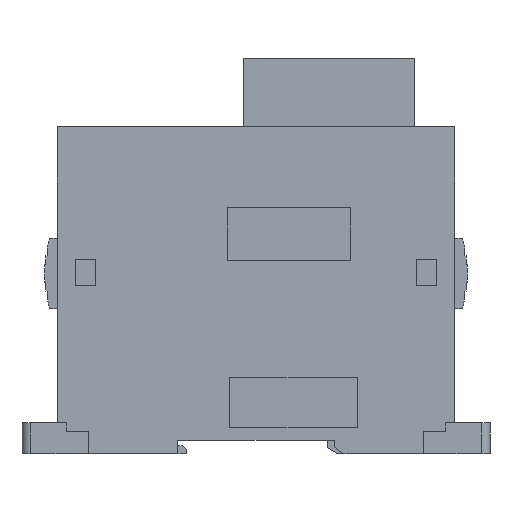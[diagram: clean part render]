
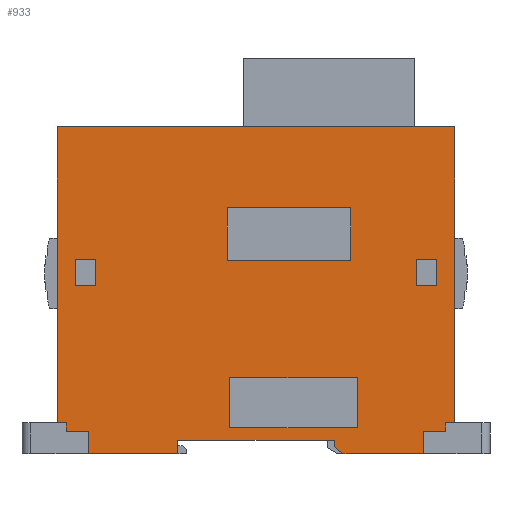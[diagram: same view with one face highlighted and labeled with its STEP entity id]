
A CAD part, left-side view. The second image highlights one B-rep face of the part: STEP entity #933.
In plain terms, the highlighted planar face has unit normal (-1, 0, 0).
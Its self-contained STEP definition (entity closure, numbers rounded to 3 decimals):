
#864=FACE_BOUND('',#1513,.T.);
#865=FACE_BOUND('',#1514,.T.);
#866=FACE_BOUND('',#1515,.T.);
#867=FACE_BOUND('',#1516,.T.);
#868=FACE_BOUND('',#1517,.T.);
#933=ADVANCED_FACE('',(#864,#865,#866,#867,#868),#1128,.T.);
#1128=PLANE('',#4553);
#1513=EDGE_LOOP('',(#1851,#1852,#1853,#1854));
#1514=EDGE_LOOP('',(#1855,#1856,#1857,#1858));
#1515=EDGE_LOOP('',(#1859,#1860,#1861,#1862));
#1516=EDGE_LOOP('',(#1863,#1864,#1865,#1866));
#1517=EDGE_LOOP('',(#1867,#1868,#1869,#1870,#1871,#1872,#1873,#1874,#1875,
#1876,#1877,#1878,#1879,#1880,#1881,#1882,#1883));
#1851=ORIENTED_EDGE('',*,*,#3173,.T.);
#1852=ORIENTED_EDGE('',*,*,#3174,.T.);
#1853=ORIENTED_EDGE('',*,*,#3175,.T.);
#1854=ORIENTED_EDGE('',*,*,#3176,.T.);
#1855=ORIENTED_EDGE('',*,*,#3177,.T.);
#1856=ORIENTED_EDGE('',*,*,#3178,.T.);
#1857=ORIENTED_EDGE('',*,*,#3179,.T.);
#1858=ORIENTED_EDGE('',*,*,#3180,.T.);
#1859=ORIENTED_EDGE('',*,*,#3181,.T.);
#1860=ORIENTED_EDGE('',*,*,#3182,.T.);
#1861=ORIENTED_EDGE('',*,*,#3183,.T.);
#1862=ORIENTED_EDGE('',*,*,#3184,.T.);
#1863=ORIENTED_EDGE('',*,*,#3185,.T.);
#1864=ORIENTED_EDGE('',*,*,#3186,.T.);
#1865=ORIENTED_EDGE('',*,*,#3187,.T.);
#1866=ORIENTED_EDGE('',*,*,#3188,.T.);
#1867=ORIENTED_EDGE('',*,*,#3189,.T.);
#1868=ORIENTED_EDGE('',*,*,#3190,.T.);
#1869=ORIENTED_EDGE('',*,*,#3191,.T.);
#1870=ORIENTED_EDGE('',*,*,#3192,.T.);
#1871=ORIENTED_EDGE('',*,*,#3193,.T.);
#1872=ORIENTED_EDGE('',*,*,#3194,.T.);
#1873=ORIENTED_EDGE('',*,*,#3195,.T.);
#1874=ORIENTED_EDGE('',*,*,#3196,.T.);
#1875=ORIENTED_EDGE('',*,*,#3197,.T.);
#1876=ORIENTED_EDGE('',*,*,#3198,.T.);
#1877=ORIENTED_EDGE('',*,*,#3199,.T.);
#1878=ORIENTED_EDGE('',*,*,#3200,.F.);
#1879=ORIENTED_EDGE('',*,*,#3148,.F.);
#1880=ORIENTED_EDGE('',*,*,#3201,.F.);
#1881=ORIENTED_EDGE('',*,*,#3202,.T.);
#1882=ORIENTED_EDGE('',*,*,#3203,.T.);
#1883=ORIENTED_EDGE('',*,*,#3204,.T.);
#2778=VERTEX_POINT('',#5858);
#2779=VERTEX_POINT('',#5860);
#2799=VERTEX_POINT('',#5916);
#2800=VERTEX_POINT('',#5917);
#2801=VERTEX_POINT('',#5919);
#2802=VERTEX_POINT('',#5921);
#2803=VERTEX_POINT('',#5924);
#2804=VERTEX_POINT('',#5925);
#2805=VERTEX_POINT('',#5927);
#2806=VERTEX_POINT('',#5929);
#2807=VERTEX_POINT('',#5932);
#2808=VERTEX_POINT('',#5933);
#2809=VERTEX_POINT('',#5935);
#2810=VERTEX_POINT('',#5937);
#2811=VERTEX_POINT('',#5940);
#2812=VERTEX_POINT('',#5941);
#2813=VERTEX_POINT('',#5943);
#2814=VERTEX_POINT('',#5945);
#2815=VERTEX_POINT('',#5948);
#2816=VERTEX_POINT('',#5949);
#2817=VERTEX_POINT('',#5951);
#2818=VERTEX_POINT('',#5953);
#2819=VERTEX_POINT('',#5955);
#2820=VERTEX_POINT('',#5957);
#2821=VERTEX_POINT('',#5959);
#2822=VERTEX_POINT('',#5961);
#2823=VERTEX_POINT('',#5963);
#2824=VERTEX_POINT('',#5965);
#2825=VERTEX_POINT('',#5967);
#2826=VERTEX_POINT('',#5969);
#2827=VERTEX_POINT('',#5972);
#2828=VERTEX_POINT('',#5974);
#2829=VERTEX_POINT('',#5976);
#3148=EDGE_CURVE('',#2778,#2779,#3651,.T.);
#3173=EDGE_CURVE('',#2799,#2800,#3666,.T.);
#3174=EDGE_CURVE('',#2800,#2801,#3667,.T.);
#3175=EDGE_CURVE('',#2801,#2802,#3668,.T.);
#3176=EDGE_CURVE('',#2802,#2799,#3669,.T.);
#3177=EDGE_CURVE('',#2803,#2804,#3670,.T.);
#3178=EDGE_CURVE('',#2804,#2805,#3671,.T.);
#3179=EDGE_CURVE('',#2805,#2806,#3672,.T.);
#3180=EDGE_CURVE('',#2806,#2803,#3673,.T.);
#3181=EDGE_CURVE('',#2807,#2808,#3674,.T.);
#3182=EDGE_CURVE('',#2808,#2809,#3675,.T.);
#3183=EDGE_CURVE('',#2809,#2810,#3676,.T.);
#3184=EDGE_CURVE('',#2810,#2807,#3677,.T.);
#3185=EDGE_CURVE('',#2811,#2812,#3678,.T.);
#3186=EDGE_CURVE('',#2812,#2813,#3679,.T.);
#3187=EDGE_CURVE('',#2813,#2814,#3680,.T.);
#3188=EDGE_CURVE('',#2814,#2811,#3681,.T.);
#3189=EDGE_CURVE('',#2815,#2816,#3682,.T.);
#3190=EDGE_CURVE('',#2816,#2817,#3683,.T.);
#3191=EDGE_CURVE('',#2817,#2818,#3684,.T.);
#3192=EDGE_CURVE('',#2818,#2819,#3685,.T.);
#3193=EDGE_CURVE('',#2819,#2820,#3686,.T.);
#3194=EDGE_CURVE('',#2820,#2821,#3687,.T.);
#3195=EDGE_CURVE('',#2821,#2822,#3688,.T.);
#3196=EDGE_CURVE('',#2822,#2823,#3689,.T.);
#3197=EDGE_CURVE('',#2823,#2824,#3690,.T.);
#3198=EDGE_CURVE('',#2824,#2825,#3691,.T.);
#3199=EDGE_CURVE('',#2825,#2826,#3692,.T.);
#3200=EDGE_CURVE('',#2779,#2826,#3693,.T.);
#3201=EDGE_CURVE('',#2827,#2778,#3694,.T.);
#3202=EDGE_CURVE('',#2827,#2828,#3695,.T.);
#3203=EDGE_CURVE('',#2828,#2829,#3696,.T.);
#3204=EDGE_CURVE('',#2829,#2815,#3697,.T.);
#3651=LINE('',#5859,#4100);
#3666=LINE('',#5915,#4115);
#3667=LINE('',#5918,#4116);
#3668=LINE('',#5920,#4117);
#3669=LINE('',#5922,#4118);
#3670=LINE('',#5923,#4119);
#3671=LINE('',#5926,#4120);
#3672=LINE('',#5928,#4121);
#3673=LINE('',#5930,#4122);
#3674=LINE('',#5931,#4123);
#3675=LINE('',#5934,#4124);
#3676=LINE('',#5936,#4125);
#3677=LINE('',#5938,#4126);
#3678=LINE('',#5939,#4127);
#3679=LINE('',#5942,#4128);
#3680=LINE('',#5944,#4129);
#3681=LINE('',#5946,#4130);
#3682=LINE('',#5947,#4131);
#3683=LINE('',#5950,#4132);
#3684=LINE('',#5952,#4133);
#3685=LINE('',#5954,#4134);
#3686=LINE('',#5956,#4135);
#3687=LINE('',#5958,#4136);
#3688=LINE('',#5960,#4137);
#3689=LINE('',#5962,#4138);
#3690=LINE('',#5964,#4139);
#3691=LINE('',#5966,#4140);
#3692=LINE('',#5968,#4141);
#3693=LINE('',#5970,#4142);
#3694=LINE('',#5971,#4143);
#3695=LINE('',#5973,#4144);
#3696=LINE('',#5975,#4145);
#3697=LINE('',#5977,#4146);
#4100=VECTOR('',#4868,1.);
#4115=VECTOR('',#4925,1.);
#4116=VECTOR('',#4926,1.);
#4117=VECTOR('',#4927,1.);
#4118=VECTOR('',#4928,1.);
#4119=VECTOR('',#4929,1.);
#4120=VECTOR('',#4930,1.);
#4121=VECTOR('',#4931,1.);
#4122=VECTOR('',#4932,1.);
#4123=VECTOR('',#4933,1.);
#4124=VECTOR('',#4934,1.);
#4125=VECTOR('',#4935,1.);
#4126=VECTOR('',#4936,1.);
#4127=VECTOR('',#4937,1.);
#4128=VECTOR('',#4938,1.);
#4129=VECTOR('',#4939,1.);
#4130=VECTOR('',#4940,1.);
#4131=VECTOR('',#4941,1.);
#4132=VECTOR('',#4942,1.);
#4133=VECTOR('',#4943,1.);
#4134=VECTOR('',#4944,1.);
#4135=VECTOR('',#4945,1.);
#4136=VECTOR('',#4946,1.);
#4137=VECTOR('',#4947,1.);
#4138=VECTOR('',#4948,1.);
#4139=VECTOR('',#4949,1.);
#4140=VECTOR('',#4950,1.);
#4141=VECTOR('',#4951,1.);
#4142=VECTOR('',#4952,1.);
#4143=VECTOR('',#4953,1.);
#4144=VECTOR('',#4954,1.);
#4145=VECTOR('',#4955,1.);
#4146=VECTOR('',#4956,1.);
#4553=AXIS2_PLACEMENT_3D('',#5978,#4957,#4958);
#4868=DIRECTION('',(0.,-1.,0.));
#4925=DIRECTION('',(0.,0.,1.));
#4926=DIRECTION('',(0.,-1.,0.));
#4927=DIRECTION('',(0.,0.,-1.));
#4928=DIRECTION('',(0.,1.,0.));
#4929=DIRECTION('',(0.,0.,1.));
#4930=DIRECTION('',(0.,-1.,0.));
#4931=DIRECTION('',(0.,0.,-1.));
#4932=DIRECTION('',(0.,1.,0.));
#4933=DIRECTION('',(0.,1.,0.));
#4934=DIRECTION('',(0.,0.,1.));
#4935=DIRECTION('',(0.,-1.,0.));
#4936=DIRECTION('',(0.,0.,-1.));
#4937=DIRECTION('',(0.,-1.,0.));
#4938=DIRECTION('',(0.,0.,-1.));
#4939=DIRECTION('',(0.,1.,0.));
#4940=DIRECTION('',(0.,0.,1.));
#4941=DIRECTION('',(0.,0.,-1.));
#4942=DIRECTION('',(0.,-1.,0.));
#4943=DIRECTION('',(0.,0.,1.));
#4944=DIRECTION('',(0.,-1.,0.));
#4945=DIRECTION('',(0.,0.,-1.));
#4946=DIRECTION('',(0.,-0.8,-0.6));
#4947=DIRECTION('',(0.,-1.,0.));
#4948=DIRECTION('',(0.,0.,1.));
#4949=DIRECTION('',(0.,-1.,0.));
#4950=DIRECTION('',(0.,0.,1.));
#4951=DIRECTION('',(0.,-1.,0.));
#4952=DIRECTION('',(0.,0.,-1.));
#4953=DIRECTION('',(0.,0.,1.));
#4954=DIRECTION('',(0.,-1.,0.));
#4955=DIRECTION('',(0.,0.,-1.));
#4956=DIRECTION('',(0.,-1.,0.));
#4957=DIRECTION('',(-1.,0.,0.));
#4958=DIRECTION('',(0.,-1.,0.));
#5858=CARTESIAN_POINT('',(-8.8,45.,74.));
#5859=CARTESIAN_POINT('',(-8.8,-45.5,74.));
#5860=CARTESIAN_POINT('',(-8.8,-45.,74.));
#5915=CARTESIAN_POINT('',(-8.8,5.95,0.));
#5916=CARTESIAN_POINT('',(-8.8,5.95,5.8));
#5917=CARTESIAN_POINT('',(-8.8,5.95,17.2));
#5918=CARTESIAN_POINT('',(-8.8,45.,17.2));
#5919=CARTESIAN_POINT('',(-8.8,-22.95,17.2));
#5920=CARTESIAN_POINT('',(-8.8,-22.95,0.));
#5921=CARTESIAN_POINT('',(-8.8,-22.95,5.8));
#5922=CARTESIAN_POINT('',(-8.8,45.,5.8));
#5923=CARTESIAN_POINT('',(-8.8,6.5,0.));
#5924=CARTESIAN_POINT('',(-8.8,6.5,43.7));
#5925=CARTESIAN_POINT('',(-8.8,6.5,55.7));
#5926=CARTESIAN_POINT('',(-8.8,45.,55.7));
#5927=CARTESIAN_POINT('',(-8.8,-21.5,55.7));
#5928=CARTESIAN_POINT('',(-8.8,-21.5,0.));
#5929=CARTESIAN_POINT('',(-8.8,-21.5,43.7));
#5930=CARTESIAN_POINT('',(-8.8,45.,43.7));
#5931=CARTESIAN_POINT('',(-8.8,45.,38.));
#5932=CARTESIAN_POINT('',(-8.8,36.3,38.));
#5933=CARTESIAN_POINT('',(-8.8,40.9,38.));
#5934=CARTESIAN_POINT('',(-8.8,40.9,0.));
#5935=CARTESIAN_POINT('',(-8.8,40.9,44.));
#5936=CARTESIAN_POINT('',(-8.8,45.,44.));
#5937=CARTESIAN_POINT('',(-8.8,36.3,44.));
#5938=CARTESIAN_POINT('',(-8.8,36.3,0.));
#5939=CARTESIAN_POINT('',(-8.8,45.,44.));
#5940=CARTESIAN_POINT('',(-8.8,-36.3,44.));
#5941=CARTESIAN_POINT('',(-8.8,-40.9,44.));
#5942=CARTESIAN_POINT('',(-8.8,-40.9,0.));
#5943=CARTESIAN_POINT('',(-8.8,-40.9,38.));
#5944=CARTESIAN_POINT('',(-8.8,45.,38.));
#5945=CARTESIAN_POINT('',(-8.8,-36.3,38.));
#5946=CARTESIAN_POINT('',(-8.8,-36.3,0.));
#5947=CARTESIAN_POINT('',(-8.8,38.,0.));
#5948=CARTESIAN_POINT('',(-8.8,38.,5.));
#5949=CARTESIAN_POINT('',(-8.8,38.,0.));
#5950=CARTESIAN_POINT('',(-8.8,45.,0.));
#5951=CARTESIAN_POINT('',(-8.8,17.7,0.));
#5952=CARTESIAN_POINT('',(-8.8,17.7,0.));
#5953=CARTESIAN_POINT('',(-8.8,17.7,3.));
#5954=CARTESIAN_POINT('',(-8.8,45.,3.));
#5955=CARTESIAN_POINT('',(-8.8,-17.7,3.));
#5956=CARTESIAN_POINT('',(-8.8,-17.7,0.));
#5957=CARTESIAN_POINT('',(-8.8,-17.7,1.5));
#5958=CARTESIAN_POINT('',(-8.8,-17.7,1.5));
#5959=CARTESIAN_POINT('',(-8.8,-19.7,0.));
#5960=CARTESIAN_POINT('',(-8.8,45.,0.));
#5961=CARTESIAN_POINT('',(-8.8,-38.,0.));
#5962=CARTESIAN_POINT('',(-8.8,-38.,0.));
#5963=CARTESIAN_POINT('',(-8.8,-38.,5.));
#5964=CARTESIAN_POINT('',(-8.8,45.,5.));
#5965=CARTESIAN_POINT('',(-8.8,-43.,5.));
#5966=CARTESIAN_POINT('',(-8.8,-43.,0.));
#5967=CARTESIAN_POINT('',(-8.8,-43.,7.));
#5968=CARTESIAN_POINT('',(-8.8,45.,7.));
#5969=CARTESIAN_POINT('',(-8.8,-45.,7.));
#5970=CARTESIAN_POINT('',(-8.8,-45.,0.));
#5971=CARTESIAN_POINT('',(-8.8,45.,0.));
#5972=CARTESIAN_POINT('',(-8.8,45.,7.));
#5973=CARTESIAN_POINT('',(-8.8,45.,7.));
#5974=CARTESIAN_POINT('',(-8.8,43.,7.));
#5975=CARTESIAN_POINT('',(-8.8,43.,0.));
#5976=CARTESIAN_POINT('',(-8.8,43.,5.));
#5977=CARTESIAN_POINT('',(-8.8,45.,5.));
#5978=CARTESIAN_POINT('',(-8.8,45.,0.));
